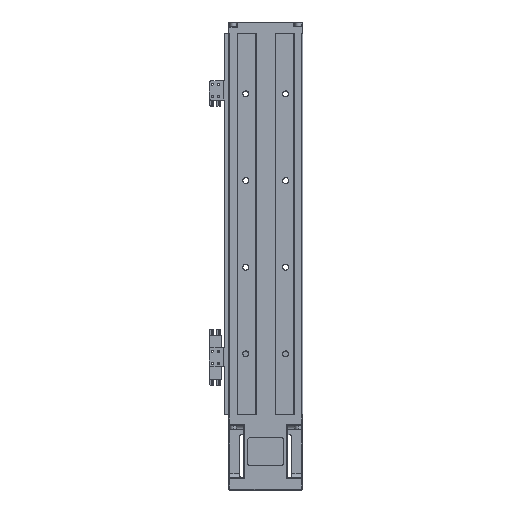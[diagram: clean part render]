
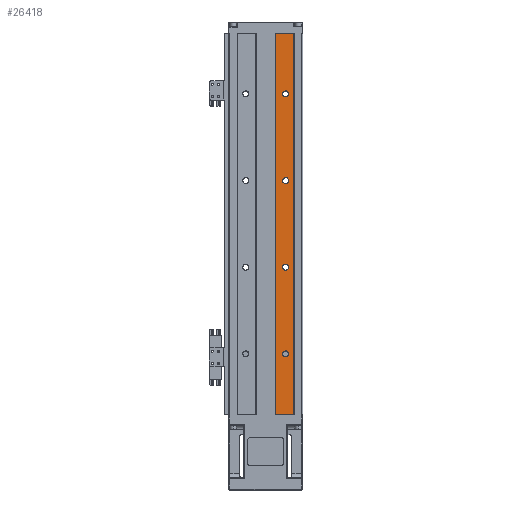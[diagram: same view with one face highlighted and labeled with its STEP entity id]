
A CAD part, front view. The second image highlights one B-rep face of the part: STEP entity #26418.
In plain terms, the highlighted planar face has unit normal (0, -1, 0).
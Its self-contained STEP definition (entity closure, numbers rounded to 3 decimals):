
#565 = VECTOR ( 'NONE', #47952, 1000. ) ;
#643 = FACE_BOUND ( 'NONE', #26694, .T. ) ;
#682 = EDGE_CURVE ( 'NONE', #16341, #27318, #34151, .T. ) ;
#1267 = DIRECTION ( 'NONE',  ( 0., 1., 0. ) ) ;
#1593 = DIRECTION ( 'NONE',  ( 0., 0., -1. ) ) ;
#2334 = CARTESIAN_POINT ( 'NONE',  ( 23., 0., 173.5 ) ) ;
#2516 = CARTESIAN_POINT ( 'NONE',  ( 43., 0., 440. ) ) ;
#2785 = CARTESIAN_POINT ( 'NONE',  ( 11.5, 0., 0. ) ) ;
#2885 = ORIENTED_EDGE ( 'NONE', *, *, #38987, .T. ) ;
#2959 = VERTEX_POINT ( 'NONE', #10844 ) ;
#3299 = EDGE_CURVE ( 'NONE', #50962, #19623, #21242, .T. ) ;
#3372 = LINE ( 'NONE', #13242, #45130 ) ;
#3392 = CARTESIAN_POINT ( 'NONE',  ( 11.5, 0., 440. ) ) ;
#4035 = CARTESIAN_POINT ( 'NONE',  ( 43., 0., 0. ) ) ;
#4208 = CIRCLE ( 'NONE', #26992, 3.5 ) ;
#5008 = DIRECTION ( 'NONE',  ( 0., 0., -1. ) ) ;
#5650 = CARTESIAN_POINT ( 'NONE',  ( 23., 0., 270. ) ) ;
#6136 = VERTEX_POINT ( 'NONE', #40983 ) ;
#6468 = VECTOR ( 'NONE', #39548, 1000. ) ;
#6551 = PLANE ( 'NONE',  #16718 ) ;
#6844 = CIRCLE ( 'NONE', #14900, 3.5 ) ;
#7034 = EDGE_CURVE ( 'NONE', #22990, #30162, #41537, .T. ) ;
#7300 = CARTESIAN_POINT ( 'NONE',  ( 23., 0., 166.5 ) ) ;
#7866 = AXIS2_PLACEMENT_3D ( 'NONE', #41173, #1267, #23775 ) ;
#8313 = LINE ( 'NONE', #50519, #6468 ) ;
#9448 = EDGE_CURVE ( 'NONE', #19623, #36091, #8313, .T. ) ;
#9849 = DIRECTION ( 'NONE',  ( 0., 1., 0. ) ) ;
#10451 = ORIENTED_EDGE ( 'NONE', *, *, #36752, .T. ) ;
#10844 = CARTESIAN_POINT ( 'NONE',  ( 32.5, 0., 440. ) ) ;
#11063 = ORIENTED_EDGE ( 'NONE', *, *, #45637, .T. ) ;
#11877 = ORIENTED_EDGE ( 'NONE', *, *, #12515, .T. ) ;
#12515 = EDGE_CURVE ( 'NONE', #2959, #36091, #44678, .T. ) ;
#13242 = CARTESIAN_POINT ( 'NONE',  ( 32.5, 0., 440. ) ) ;
#13322 = CARTESIAN_POINT ( 'NONE',  ( 23., 0., 370. ) ) ;
#13582 = EDGE_LOOP ( 'NONE', ( #30409, #14741, #11877, #15830 ) ) ;
#13993 = DIRECTION ( 'NONE',  ( 0., 1., 0. ) ) ;
#14364 = FACE_BOUND ( 'NONE', #18031, .T. ) ;
#14741 = ORIENTED_EDGE ( 'NONE', *, *, #14859, .F. ) ;
#14859 = EDGE_CURVE ( 'NONE', #2959, #50962, #3372, .T. ) ;
#14900 = AXIS2_PLACEMENT_3D ( 'NONE', #38990, #42624, #27351 ) ;
#15230 = CARTESIAN_POINT ( 'NONE',  ( 23., 0., 373.5 ) ) ;
#15830 = ORIENTED_EDGE ( 'NONE', *, *, #9448, .F. ) ;
#15976 = CIRCLE ( 'NONE', #34896, 3.5 ) ;
#16341 = VERTEX_POINT ( 'NONE', #7300 ) ;
#16620 = DIRECTION ( 'NONE',  ( -1., 0., 0. ) ) ;
#16718 = AXIS2_PLACEMENT_3D ( 'NONE', #2516, #49940, #26134 ) ;
#18031 = EDGE_LOOP ( 'NONE', ( #10451, #32758 ) ) ;
#18089 = EDGE_CURVE ( 'NONE', #33993, #37863, #4208, .T. ) ;
#18423 = VERTEX_POINT ( 'NONE', #44280 ) ;
#19623 = VERTEX_POINT ( 'NONE', #2785 ) ;
#21242 = LINE ( 'NONE', #4035, #565 ) ;
#22068 = DIRECTION ( 'NONE',  ( 0., 0., -1. ) ) ;
#22463 = DIRECTION ( 'NONE',  ( 0., 0., -1. ) ) ;
#22528 = FACE_BOUND ( 'NONE', #28457, .T. ) ;
#22978 = AXIS2_PLACEMENT_3D ( 'NONE', #42928, #46937, #50945 ) ;
#22990 = VERTEX_POINT ( 'NONE', #15230 ) ;
#23775 = DIRECTION ( 'NONE',  ( 0., 0., -1. ) ) ;
#24550 = EDGE_CURVE ( 'NONE', #18423, #6136, #28306, .T. ) ;
#24593 = ORIENTED_EDGE ( 'NONE', *, *, #18089, .T. ) ;
#26134 = DIRECTION ( 'NONE',  ( 0., 0., -1. ) ) ;
#26418 = ADVANCED_FACE ( 'NONE', ( #44924, #14364, #643, #22528, #33773 ), #6551, .T. ) ;
#26694 = EDGE_LOOP ( 'NONE', ( #24593, #36387 ) ) ;
#26992 = AXIS2_PLACEMENT_3D ( 'NONE', #5650, #33204, #1593 ) ;
#27318 = VERTEX_POINT ( 'NONE', #2334 ) ;
#27351 = DIRECTION ( 'NONE',  ( 0., 0., -1. ) ) ;
#28306 = CIRCLE ( 'NONE', #42648, 3.5 ) ;
#28457 = EDGE_LOOP ( 'NONE', ( #31578, #11063 ) ) ;
#29788 = VECTOR ( 'NONE', #16620, 1000. ) ;
#30093 = CARTESIAN_POINT ( 'NONE',  ( 23., 0., 366.5 ) ) ;
#30162 = VERTEX_POINT ( 'NONE', #30093 ) ;
#30409 = ORIENTED_EDGE ( 'NONE', *, *, #3299, .F. ) ;
#31578 = ORIENTED_EDGE ( 'NONE', *, *, #682, .T. ) ;
#32758 = ORIENTED_EDGE ( 'NONE', *, *, #7034, .T. ) ;
#33124 = CARTESIAN_POINT ( 'NONE',  ( 23., 0., 170. ) ) ;
#33204 = DIRECTION ( 'NONE',  ( 0., 1., 0. ) ) ;
#33641 = DIRECTION ( 'NONE',  ( 0., 0., -1. ) ) ;
#33651 = CIRCLE ( 'NONE', #7866, 3.5 ) ;
#33773 = FACE_BOUND ( 'NONE', #40303, .T. ) ;
#33993 = VERTEX_POINT ( 'NONE', #42460 ) ;
#34151 = CIRCLE ( 'NONE', #39036, 3.5 ) ;
#34896 = AXIS2_PLACEMENT_3D ( 'NONE', #45922, #13993, #22068 ) ;
#35198 = CARTESIAN_POINT ( 'NONE',  ( 23., 0., 273.5 ) ) ;
#36091 = VERTEX_POINT ( 'NONE', #3392 ) ;
#36358 = ORIENTED_EDGE ( 'NONE', *, *, #24550, .T. ) ;
#36387 = ORIENTED_EDGE ( 'NONE', *, *, #45727, .T. ) ;
#36752 = EDGE_CURVE ( 'NONE', #30162, #22990, #15976, .T. ) ;
#37863 = VERTEX_POINT ( 'NONE', #35198 ) ;
#37996 = CIRCLE ( 'NONE', #22978, 3.5 ) ;
#38987 = EDGE_CURVE ( 'NONE', #6136, #18423, #6844, .T. ) ;
#38990 = CARTESIAN_POINT ( 'NONE',  ( 23., 0., 70. ) ) ;
#39036 = AXIS2_PLACEMENT_3D ( 'NONE', #33124, #49440, #33641 ) ;
#39548 = DIRECTION ( 'NONE',  ( 0., 0., 1. ) ) ;
#39809 = CARTESIAN_POINT ( 'NONE',  ( 43., 0., 440. ) ) ;
#40303 = EDGE_LOOP ( 'NONE', ( #2885, #36358 ) ) ;
#40983 = CARTESIAN_POINT ( 'NONE',  ( 23., 0., 66.5 ) ) ;
#41173 = CARTESIAN_POINT ( 'NONE',  ( 23., 0., 270. ) ) ;
#41223 = DIRECTION ( 'NONE',  ( 0., 1., 0. ) ) ;
#41537 = CIRCLE ( 'NONE', #44364, 3.5 ) ;
#42460 = CARTESIAN_POINT ( 'NONE',  ( 23., 0., 266.5 ) ) ;
#42624 = DIRECTION ( 'NONE',  ( 0., 1., 0. ) ) ;
#42648 = AXIS2_PLACEMENT_3D ( 'NONE', #49957, #9849, #22463 ) ;
#42928 = CARTESIAN_POINT ( 'NONE',  ( 23., 0., 170. ) ) ;
#44280 = CARTESIAN_POINT ( 'NONE',  ( 23., 0., 73.5 ) ) ;
#44364 = AXIS2_PLACEMENT_3D ( 'NONE', #13322, #41223, #5008 ) ;
#44678 = LINE ( 'NONE', #39809, #29788 ) ;
#44724 = CARTESIAN_POINT ( 'NONE',  ( 32.5, 0., 0. ) ) ;
#44924 = FACE_OUTER_BOUND ( 'NONE', #13582, .T. ) ;
#45130 = VECTOR ( 'NONE', #49324, 1000. ) ;
#45637 = EDGE_CURVE ( 'NONE', #27318, #16341, #37996, .T. ) ;
#45727 = EDGE_CURVE ( 'NONE', #37863, #33993, #33651, .T. ) ;
#45922 = CARTESIAN_POINT ( 'NONE',  ( 23., 0., 370. ) ) ;
#46937 = DIRECTION ( 'NONE',  ( 0., 1., 0. ) ) ;
#47952 = DIRECTION ( 'NONE',  ( -1., 0., 0. ) ) ;
#49324 = DIRECTION ( 'NONE',  ( 0., 0., -1. ) ) ;
#49440 = DIRECTION ( 'NONE',  ( 0., 1., 0. ) ) ;
#49940 = DIRECTION ( 'NONE',  ( 0., -1., 0. ) ) ;
#49957 = CARTESIAN_POINT ( 'NONE',  ( 23., 0., 70. ) ) ;
#50519 = CARTESIAN_POINT ( 'NONE',  ( 11.5, 0., 440. ) ) ;
#50945 = DIRECTION ( 'NONE',  ( 0., 0., -1. ) ) ;
#50962 = VERTEX_POINT ( 'NONE', #44724 ) ;
